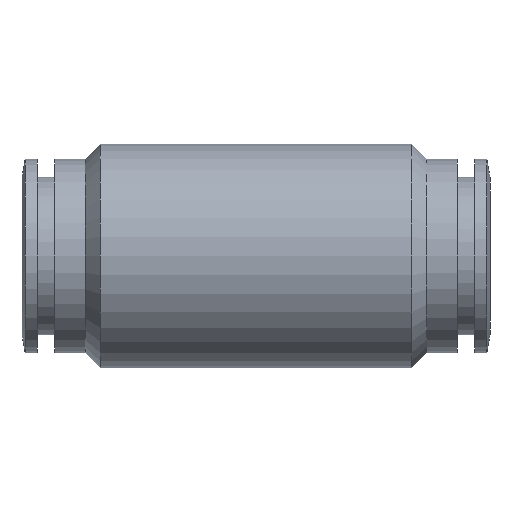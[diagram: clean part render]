
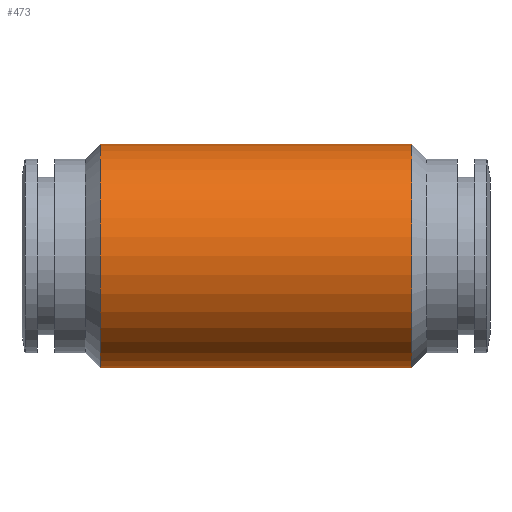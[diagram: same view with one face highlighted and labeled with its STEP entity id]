
A CAD part, left-side view. The second image highlights one B-rep face of the part: STEP entity #473.
In plain terms, the highlighted cylindrical face has radius 11 mm (diameter 22 mm), a full revolution.
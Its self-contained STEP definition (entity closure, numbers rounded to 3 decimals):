
#439=CARTESIAN_POINT('',(-11.0,4.5,0.0));
#440=VERTEX_POINT('',#439);
#441=CARTESIAN_POINT('',(0.0,4.5,0.0));
#442=DIRECTION('',(0.0,1.0,0.0));
#443=DIRECTION('',(-1.0,0.0,0.0));
#444=AXIS2_PLACEMENT_3D('',#441,#442,#443);
#445=CIRCLE('',#444,11.0);
#446=EDGE_CURVE('',#440,#440,#445,.T.);
#454=CARTESIAN_POINT('',(0.0,19.8,0.0));
#455=DIRECTION('',(0.0,1.0,0.0));
#456=DIRECTION('',(-1.0,0.0,0.0));
#457=AXIS2_PLACEMENT_3D('',#454,#455,#456);
#458=CYLINDRICAL_SURFACE('',#457,11.0);
#459=CARTESIAN_POINT('',(-11.0,35.1,0.0));
#460=VERTEX_POINT('',#459);
#461=CARTESIAN_POINT('',(0.0,35.1,0.0));
#462=DIRECTION('',(0.0,1.0,0.0));
#463=DIRECTION('',(-1.0,0.0,0.0));
#464=AXIS2_PLACEMENT_3D('',#461,#462,#463);
#465=CIRCLE('',#464,11.0);
#466=EDGE_CURVE('',#460,#460,#465,.T.);
#467=ORIENTED_EDGE('',*,*,#466,.F.);
#468=EDGE_LOOP('',(#467));
#469=FACE_OUTER_BOUND('',#468,.T.);
#470=ORIENTED_EDGE('',*,*,#446,.T.);
#471=EDGE_LOOP('',(#470));
#472=FACE_BOUND('',#471,.T.);
#473=ADVANCED_FACE('',(#469,#472),#458,.T.);
